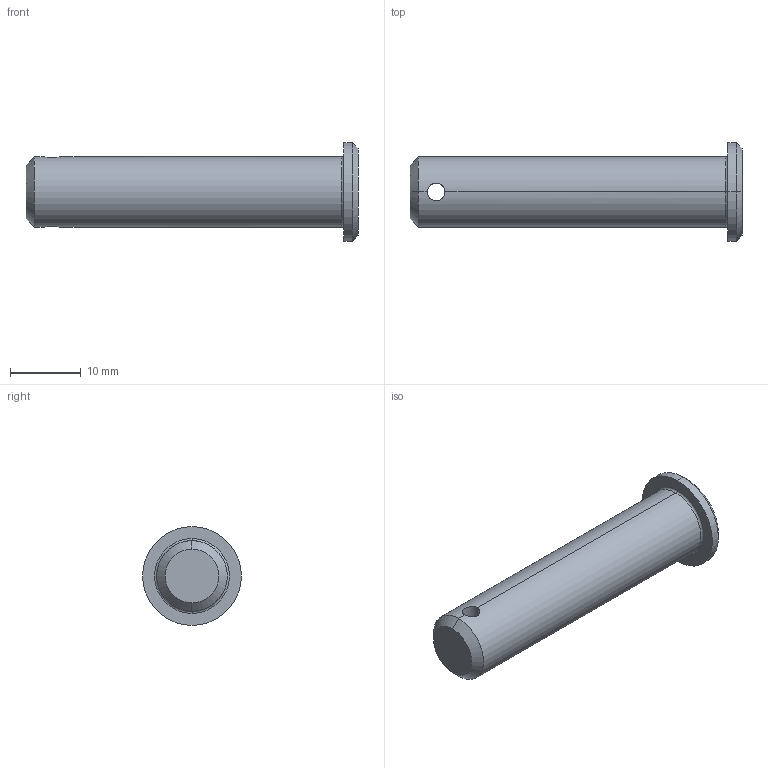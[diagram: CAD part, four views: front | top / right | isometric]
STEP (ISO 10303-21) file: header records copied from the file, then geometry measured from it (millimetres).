
FILE_DESCRIPTION (( 'STEP AP203' ), '1' );
FILE_NAME ('Wiberger-sms2360_10x45.step', '2012-10-09T08:57:06', ( 'Magnus' ), ( 'Wiberger' ), 'SwSTEP 2.0', 'SolidWorks 2011', '' );
FILE_SCHEMA (( 'CONFIG_CONTROL_DESIGN' ));
Length unit declared in the file: millimetre
Products named in the file (1): Wiberger-sms2360_10x45
Bounding box: 47 x 14 x 14 mm (x, y, z)
Volume: 3759.7 mm3; surface area: 1827.6 mm2
Topology: 1 solids, 1 shells, 15 faces, 32 edges, 18 vertices
Faces by surface type: cylinder 6, cone 4, plane 3, torus 2
Entity records: 555 total; most frequent: CARTESIAN_POINT 146, DIRECTION 76, ORIENTED_EDGE 64, AXIS2_PLACEMENT_3D 32, EDGE_CURVE 32, VERTEX_POINT 18, CIRCLE 16, EDGE_LOOP 16
